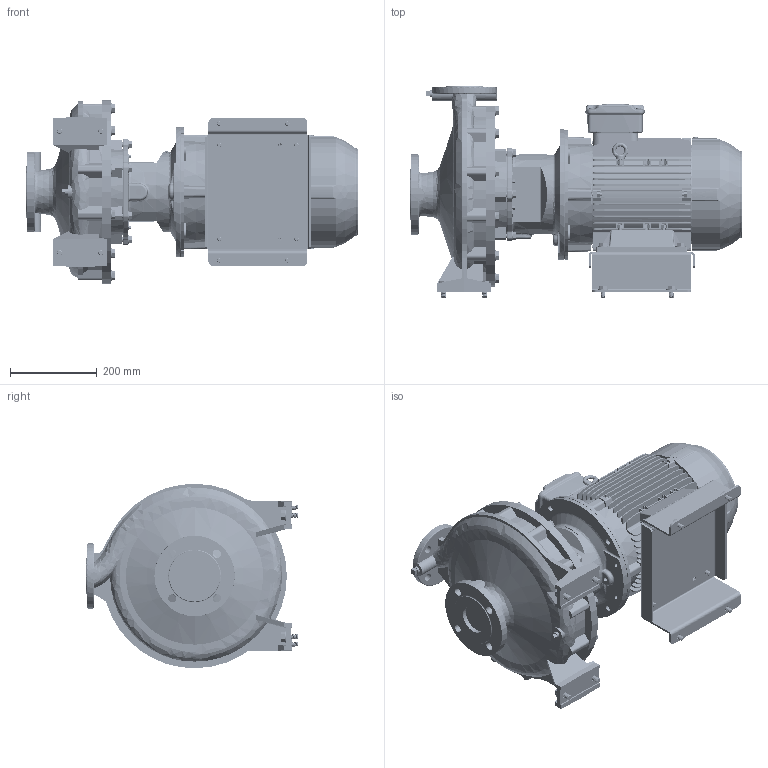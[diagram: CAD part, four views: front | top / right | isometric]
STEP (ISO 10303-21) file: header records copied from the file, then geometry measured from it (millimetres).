
FILE_DESCRIPTION (( 'STEP AP214' ), '1' );
FILE_NAME ('GSD4 40-315_7.5_(132M)_W21.STEP', '2026-06-18T06:01:14', ( '' ), ( '' ), 'SwSTEP 2.0', 'SolidWorks 2024', '' );
FILE_SCHEMA (( 'AUTOMOTIVE_DESIGN' ));
Length unit declared in the file: millimetre
Products named in the file (12): Parametric bolt_SFT-A249B; Parametric Flat Washer_M10; Parametric bolt_SFT-A299B; 40-315-132M_ﾃﾞﾌｫﾙﾄ; Parametric bolt and washer_SFT-A299B; 132M ALIE3_W21T_B35; GSD4 40-315_7.5_(132M)_W21; Parametric bolt and washer_SFT-A253B; Parametric bolt_SFT-A253B; Parametric Flat Washer_M12; Parametric bolt and washer_SFT-A249B; 140_178 x 93 BP - CGSDA-5244
Assembly tree (21 placements, depth 3):
  GSD4 40-315_7.5_(132M)_W21
    40-315-132M_ﾃﾞﾌｫﾙﾄ
    140_178 x 93 BP - CGSDA-5244
    Parametric bolt and washer_SFT-A249B  x4
      Parametric bolt_SFT-A249B
      Parametric Flat Washer_M10
    Parametric bolt and washer_SFT-A253B  x4
      Parametric bolt_SFT-A253B
      Parametric Flat Washer_M10
    Parametric bolt and washer_SFT-A299B  x4
      Parametric bolt_SFT-A299B
      Parametric Flat Washer_M12
    132M ALIE3_W21T_B35
Bounding box: 764.8 x 488 x 425 mm (x, y, z)
Volume: 35877262.3 mm3; surface area: 2446976.1 mm2
Topology: 31 solids, 31 shells, 5379 faces, 13979 edges, 8997 vertices
Faces by surface type: plane 3076, cylinder 1358, torus 318, bspline 301, cone 294, sphere 32
Entity records: 188853 total; most frequent: CARTESIAN_POINT 72150, ORIENTED_EDGE 25304, DIRECTION 22548, EDGE_CURVE 12652, VERTEX_POINT 8157, LINE 8154, VECTOR 8154, AXIS2_PLACEMENT_3D 7197
